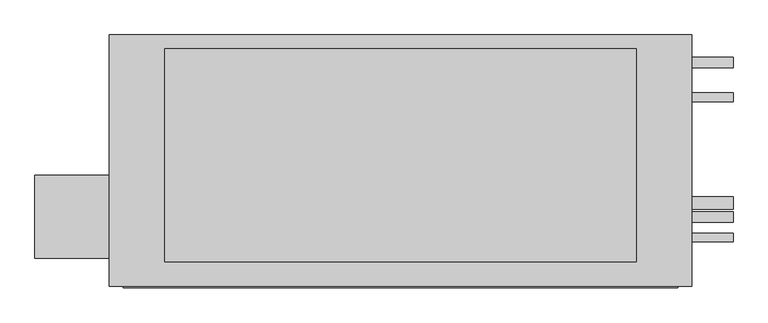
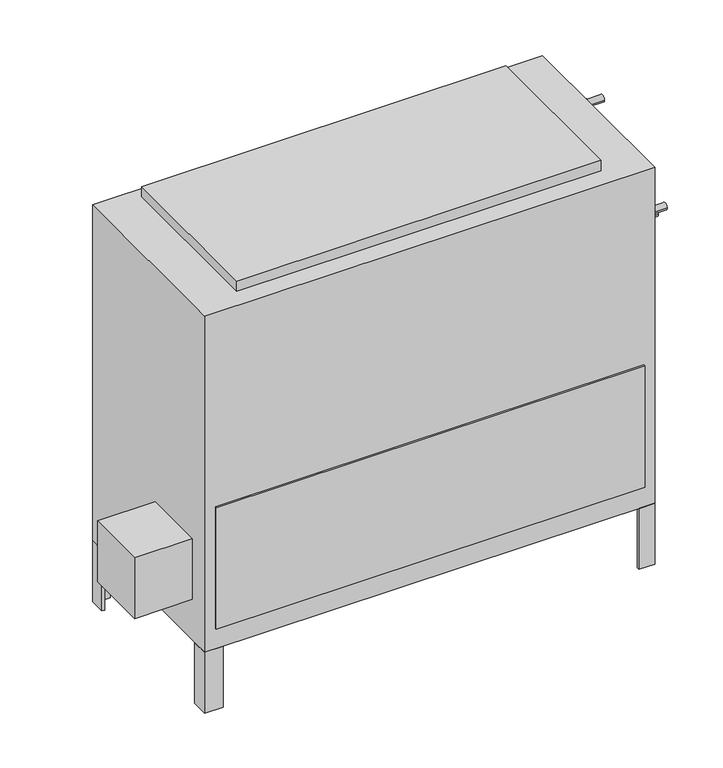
"""IFC4 building model written with IfcOpenShell, lengths in millimetres: proxy geometry, Concealed_High_Capacity_Vertical_Fan_Coil_Unit_-_42DDA_-_CARRIER_-_4-Pipe_RH_2022 : Size 14 - 277v/60Hz/1Ph - 4/2 Coil."""

from ifc_helpers import new_model, si_unit, point, frame, frame_2d, origin, origin_with_axes, place, context, project, spatial, polyline, circle_curve, trimmed, segment, composite_curve, outline, extrude, source, transform, mapped, element, save


def mechanical_equipment_4ca5ce02(model_context):
    return source(origin(), model_context, "Body", "SweptSolid", [
        extrude(outline(polyline([(-517.525, -417.5125), (-517.525, -265.1125), (-381.0, -265.1125), (-381.0, -417.5125), (-517.525, -417.5125)])), frame((0.0, 0.0, 101.6), z_axis=(0.0, 0.0, 1.0), x_axis=(1.0, 0.0, 0.0)), (0.0, 0.0, 1.0), 152.4),
        extrude(outline(polyline([(685.8, -46.0375), (679.45, -46.0375), (679.45, -14.2875), (647.7, -14.2875), (647.7, -7.9375), (685.8, -7.9375), (685.8, -46.0375)])), frame((0.0, 0.0, -152.4), z_axis=(0.0, 0.0, 1.0), x_axis=(1.0, 0.0, 0.0)), (0.0, 0.0, 1.0), 152.4),
        extrude(outline(polyline([(-342.9, -7.9375), (-342.9, -14.2875), (-374.65, -14.2875), (-374.65, -46.0375), (-381.0, -46.0375), (-381.0, -7.9375), (-342.9, -7.9375)])), frame((0.0, 0.0, -152.4), z_axis=(0.0, 0.0, 1.0), x_axis=(1.0, 0.0, 0.0)), (0.0, 0.0, 1.0), 152.4),
        extrude(outline(polyline([(647.7, -468.3125), (647.7, -461.9625), (679.45, -461.9625), (679.45, -430.2125), (685.8, -430.2125), (685.8, -468.3125), (647.7, -468.3125)])), frame((0.0, 0.0, -152.4), z_axis=(0.0, 0.0, 1.0), x_axis=(1.0, 0.0, 0.0)), (0.0, 0.0, 1.0), 152.4),
        extrude(outline(polyline([(-381.0, -428.1199163), (-374.65, -428.1199163), (-374.65, -461.9625), (-337.5318533, -461.9625), (-337.5318533, -468.3125), (-381.0, -468.3125), (-381.0, -428.1199163)])), frame((0.0, 0.0, -152.4), z_axis=(0.0, 0.0, 1.0), x_axis=(1.0, 0.0, 0.0)), (0.0, 0.0, 1.0), 152.4),
        extrude(outline(polyline([(584.2, -33.3375), (584.2, -423.8625), (-279.4, -423.8625), (-279.4, -33.3375), (584.2, -33.3375)])), frame((0.0, 0.0, 841.375), z_axis=(0.0, 0.0, 1.0), x_axis=(1.0, 0.0, 0.0)), (0.0, 0.0, 1.0), 25.4),
        extrude(outline(polyline([(660.4, -471.4875), (-355.6, -471.4875), (-355.6, -468.3125), (660.4, -468.3125), (660.4, -471.4875)])), frame((0.0, 0.0, 50.8), z_axis=(0.0, 0.0, 1.0), x_axis=(1.0, 0.0, 0.0)), (0.0, 0.0, 1.0), 304.8),
        extrude(outline(composite_curve([segment(trimmed(circle_curve(frame_2d((-122.2375, 777.875)), 7.9375), [point((-114.3, 777.875))], [point((-130.175, 777.875))], False, "CARTESIAN"), True, "CONTINUOUS"), segment(trimmed(circle_curve(frame_2d((-122.2375, 777.875)), 7.9375), [point((-130.175, 777.875))], [point((-114.3, 777.875))], False, "CARTESIAN"), True, "CONTINUOUS")], self_intersect=False)), frame((685.8, 0.0, 0.0), z_axis=(1.0, 0.0, 0.0), x_axis=(0.0, 1.0, 0.0)), (0.0, 0.0, 1.0), 76.2),
        extrude(outline(composite_curve([segment(trimmed(circle_curve(frame_2d((-379.4125, 663.575)), 7.9375), [point((-371.475, 663.575))], [point((-387.35, 663.575))], False, "CARTESIAN"), True, "CONTINUOUS"), segment(trimmed(circle_curve(frame_2d((-379.4125, 663.575)), 7.9375), [point((-387.35, 663.575))], [point((-371.475, 663.575))], False, "CARTESIAN"), True, "CONTINUOUS")], self_intersect=False)), frame((685.8, 0.0, 0.0), z_axis=(1.0, 0.0, 0.0), x_axis=(0.0, 1.0, 0.0)), (0.0, 0.0, 1.0), 76.2),
        extrude(outline(composite_curve([segment(trimmed(circle_curve(frame_2d((-58.7375, 727.075)), 9.525), [point((-49.2125, 727.075))], [point((-68.2625, 727.075))], False, "CARTESIAN"), True, "CONTINUOUS"), segment(trimmed(circle_curve(frame_2d((-58.7375, 727.075)), 9.525), [point((-68.2625, 727.075))], [point((-49.2125, 727.075))], False, "CARTESIAN"), True, "CONTINUOUS")], self_intersect=False)), frame((685.8, 0.0, 0.0), z_axis=(1.0, 0.0, 0.0), x_axis=(0.0, 1.0, 0.0)), (0.0, 0.0, 1.0), 76.2),
        extrude(outline(composite_curve([segment(trimmed(circle_curve(frame_2d((-341.3125, 625.475)), 9.525), [point((-331.7875, 625.475))], [point((-350.8375, 625.475))], False, "CARTESIAN"), True, "CONTINUOUS"), segment(trimmed(circle_curve(frame_2d((-341.3125, 625.475)), 9.525), [point((-350.8375, 625.475))], [point((-331.7875, 625.475))], False, "CARTESIAN"), True, "CONTINUOUS")], self_intersect=False)), frame((685.8, 0.0, 0.0), z_axis=(1.0, 0.0, 0.0), x_axis=(0.0, 1.0, 0.0)), (0.0, 0.0, 1.0), 76.2),
        extrude(outline(composite_curve([segment(trimmed(circle_curve(frame_2d((-315.9125, 536.575)), 11.1125), [point((-304.8, 536.575))], [point((-327.025, 536.575))], False, "CARTESIAN"), True, "CONTINUOUS"), segment(trimmed(circle_curve(frame_2d((-315.9125, 536.575)), 11.1125), [point((-327.025, 536.575))], [point((-304.8, 536.575))], False, "CARTESIAN"), True, "CONTINUOUS")], self_intersect=False)), frame((685.8, 0.0, 0.0), z_axis=(1.0, 0.0, 0.0), x_axis=(0.0, 1.0, 0.0)), (0.0, 0.0, 1.0), 76.2),
        extrude(outline(polyline([(685.8, -7.9375), (685.8, -468.3125), (-381.0, -468.3125), (-381.0, -7.9375), (685.8, -7.9375)])), origin_with_axes(), (0.0, 0.0, 1.0), 841.375),
    ])


if __name__ == "__main__":
    model = new_model("IFC4")
    model_context = context("Model", 3, world=origin())
    ifc_project = project(units=[si_unit("LENGTHUNIT", "METRE", prefix="MILLI")], contexts=[model_context])
    site = spatial("IfcSite", under=ifc_project)
    building = spatial("IfcBuilding", under=site)
    placement = place(None, origin())
    mechanical_equipment_shape = mechanical_equipment_4ca5ce02(model_context)
    element("IfcBuildingElementProxy", 1, Name="Concealed_High_Capacity_Vertical_Fan_Coil_Unit_-_42DDA_-_CARRIER_-_4-Pipe_RH_2022 : Size 14 - 277v/60Hz/1Ph - 4/2 Coil", ObjectType="Concealed_High_Capacity_Vertical_Fan_Coil_Unit_-_42DDA_-_CARRIER_-_4-Pipe_RH_2022 : Size 14 - 277v/60Hz/1Ph - 4/2 Coil", at=placement, inside=building, context=model_context, shape_type="MappedRepresentation", body=[
        mapped(mechanical_equipment_shape, transform((0.0, 0.0, 0.0), x_axis=(1.0, 0.0, 0.0), y_axis=(0.0, 1.0, 0.0), z_axis=(0.0, 0.0, 1.0))),
    ])
    save(model, "model.ifc")
